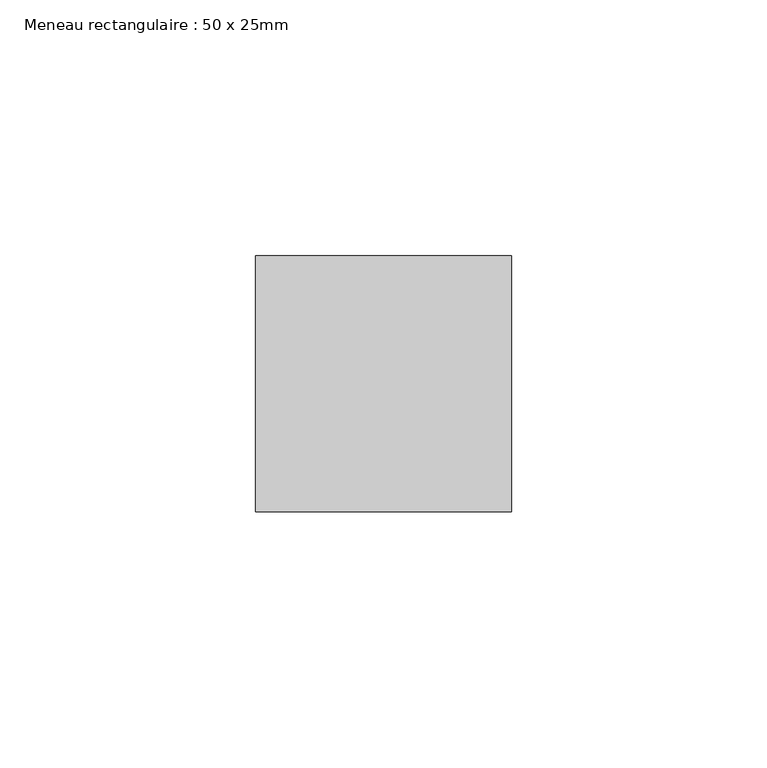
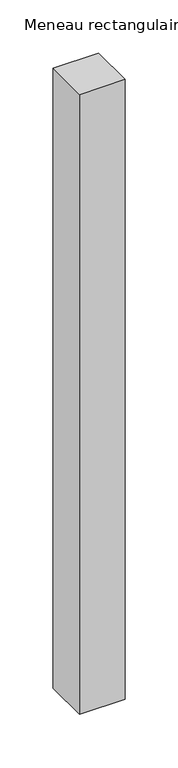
"""IFC4 building model written with IfcOpenShell, lengths in millimetres: member geometry, Meneau rectangulaire : 50 x 25mm."""

from ifc_helpers import new_model, si_unit, frame, origin, place, context, project, spatial, polyline, outline, extrude, source, transform, mapped, element, save


def meneau_rectangulaire_50_x_25mm_b367a371(model_context):
    return source(origin(), model_context, "Body", "SweptSolid", [
        extrude(outline(polyline([(25.0, 0.0), (25.0, -50.0), (-25.0, -50.0), (-25.0, 0.0), (25.0, 0.0)])), frame((0.0, 0.0, -714.3690229), z_axis=(0.0, 0.0, 1.0), x_axis=(1.0, 0.0, 0.0)), (0.0, 0.0, 1.0), 714.3690229),
    ])


if __name__ == "__main__":
    model = new_model("IFC4")
    model_context = context("Model", 3, world=origin())
    ifc_project = project(units=[si_unit("LENGTHUNIT", "METRE", prefix="MILLI")], contexts=[model_context])
    site = spatial("IfcSite", under=ifc_project)
    building = spatial("IfcBuilding", under=site)
    placement = place(None, origin())
    meneau_rectangulaire_50_x_25mm_shape = meneau_rectangulaire_50_x_25mm_b367a371(model_context)
    element("IfcMember", 1, ObjectType="Meneau rectangulaire : 50 x 25mm", at=placement, inside=building, context=model_context, shape_type="MappedRepresentation", body=[
        mapped(meneau_rectangulaire_50_x_25mm_shape, transform((0.0, 0.0, 0.0), x_axis=(1.0, 0.0, 0.0), y_axis=(0.0, 1.0, 0.0), z_axis=(0.0, 0.0, 1.0))),
    ])
    save(model, "model.ifc")
